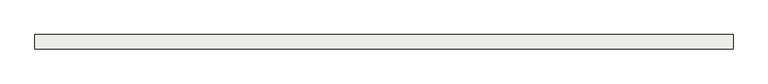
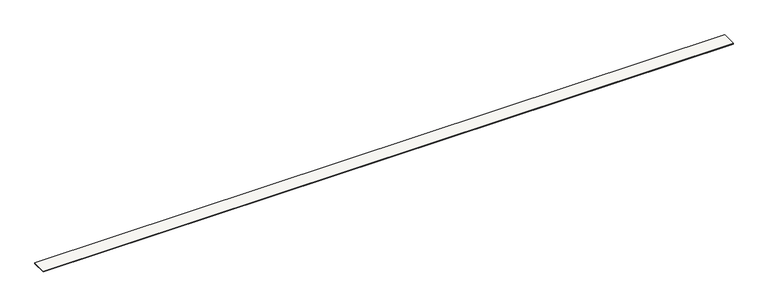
"""IFC4 building model written with IfcOpenShell, lengths in millimetres: slab geometry, Sol-02 - Tablette bois 2cm."""

from ifc_helpers import new_model, si_unit, origin, origin_with_axes, place, context, project, spatial, polyline, outline, extrude, source, transform, mapped, element, save


def slab_99661d71(model_context):
    return source(origin(), model_context, "Body", "SweptSolid", [
        extrude(outline(polyline([(60906.9999476, 9.0), (60906.9999476, 309.0), (75364.9999476, 309.0), (75364.9999476, 9.0), (60906.9999476, 9.0)])), origin_with_axes(), (0.0, 0.0, 1.0), 20.0),
    ])


if __name__ == "__main__":
    model = new_model("IFC4")
    model_context = context("Model", 3, world=origin())
    ifc_project = project(units=[si_unit("LENGTHUNIT", "METRE", prefix="MILLI")], contexts=[model_context])
    site = spatial("IfcSite", under=ifc_project)
    building = spatial("IfcBuilding", under=site)
    placement = place(None, origin())
    slab_shape = slab_99661d71(model_context)
    element("IfcSlab", 1, ObjectType="Sol-02 - Tablette bois 2cm", at=placement, inside=building, context=model_context, shape_type="MappedRepresentation", body=[
        mapped(slab_shape, transform((0.0, 0.0, 0.0), x_axis=(1.0, 0.0, 0.0), y_axis=(0.0, 1.0, 0.0), z_axis=(0.0, 0.0, 1.0))),
    ])
    save(model, "model.ifc")
